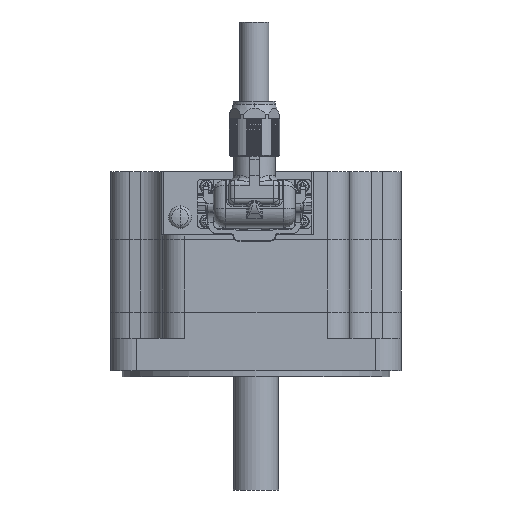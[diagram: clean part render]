
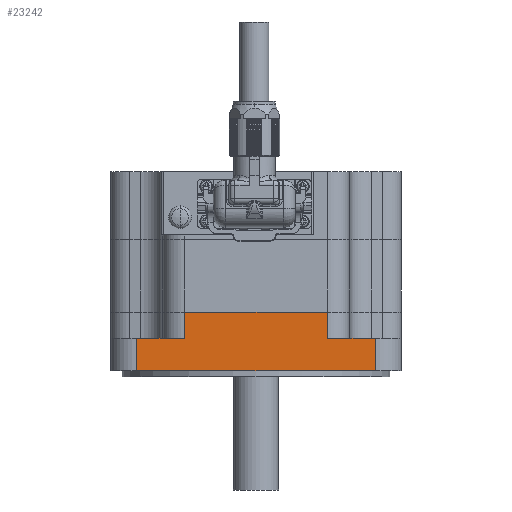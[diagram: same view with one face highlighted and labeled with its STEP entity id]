
A CAD part, front view. The second image highlights one B-rep face of the part: STEP entity #23242.
In plain terms, the highlighted planar face has unit normal (0, -1, 0).
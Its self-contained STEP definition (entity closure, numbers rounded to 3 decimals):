
#1114 = VERTEX_POINT ( 'NONE', #22687 ) ;
#1337 = ORIENTED_EDGE ( 'NONE', *, *, #22222, .F. ) ;
#1489 = DIRECTION ( 'NONE',  ( 1., 0., 0. ) ) ;
#2565 = EDGE_CURVE ( 'NONE', #32453, #25958, #18592, .T. ) ;
#2592 = VERTEX_POINT ( 'NONE', #26197 ) ;
#3045 = CARTESIAN_POINT ( 'NONE',  ( -37., -45., 10. ) ) ;
#4491 = DIRECTION ( 'NONE',  ( 0., 0., 1. ) ) ;
#5280 = CARTESIAN_POINT ( 'NONE',  ( -45., -45., 18.1 ) ) ;
#6147 = EDGE_CURVE ( 'NONE', #1114, #2592, #16616, .T. ) ;
#7098 = CARTESIAN_POINT ( 'NONE',  ( -37., -45., 10. ) ) ;
#7139 = AXIS2_PLACEMENT_3D ( 'NONE', #31786, #22745, #4491 ) ;
#7410 = ORIENTED_EDGE ( 'NONE', *, *, #27499, .F. ) ;
#7916 = VERTEX_POINT ( 'NONE', #19428 ) ;
#8008 = ORIENTED_EDGE ( 'NONE', *, *, #24191, .T. ) ;
#8068 = LINE ( 'NONE', #12669, #24216 ) ;
#8514 = VECTOR ( 'NONE', #11416, 1000. ) ;
#8929 = ORIENTED_EDGE ( 'NONE', *, *, #16890, .T. ) ;
#10703 = ORIENTED_EDGE ( 'NONE', *, *, #2565, .T. ) ;
#11168 = VERTEX_POINT ( 'NONE', #16461 ) ;
#11416 = DIRECTION ( 'NONE',  ( -1., 0., 0. ) ) ;
#11742 = DIRECTION ( 'NONE',  ( 0., 0., -1. ) ) ;
#12669 = CARTESIAN_POINT ( 'NONE',  ( 37., -45., 10. ) ) ;
#15092 = LINE ( 'NONE', #22846, #32235 ) ;
#15279 = CARTESIAN_POINT ( 'NONE',  ( -37., -45., 0. ) ) ;
#16313 = DIRECTION ( 'NONE',  ( 1., 0., 0. ) ) ;
#16461 = CARTESIAN_POINT ( 'NONE',  ( 22.14, -45., 10. ) ) ;
#16616 = LINE ( 'NONE', #5280, #8514 ) ;
#16730 = VECTOR ( 'NONE', #38118, 1000. ) ;
#16758 = LINE ( 'NONE', #31467, #30997 ) ;
#16890 = EDGE_CURVE ( 'NONE', #20996, #32453, #30884, .T. ) ;
#17005 = LINE ( 'NONE', #32961, #32206 ) ;
#17370 = LINE ( 'NONE', #32533, #33489 ) ;
#18575 = EDGE_LOOP ( 'NONE', ( #7410, #28536, #37887, #34331, #8929, #10703, #8008, #1337 ) ) ;
#18592 = LINE ( 'NONE', #25936, #16730 ) ;
#19428 = CARTESIAN_POINT ( 'NONE',  ( 37., -45., 10. ) ) ;
#19669 = PLANE ( 'NONE',  #7139 ) ;
#20996 = VERTEX_POINT ( 'NONE', #3045 ) ;
#21835 = VECTOR ( 'NONE', #25309, 1000. ) ;
#22222 = EDGE_CURVE ( 'NONE', #11168, #7916, #16758, .T. ) ;
#22687 = CARTESIAN_POINT ( 'NONE',  ( 22.14, -45., 18.1 ) ) ;
#22745 = DIRECTION ( 'NONE',  ( 0., 1., 0. ) ) ;
#22846 = CARTESIAN_POINT ( 'NONE',  ( -22.14, -45., 10. ) ) ;
#23242 = ADVANCED_FACE ( 'NONE', ( #34739 ), #19669, .F. ) ;
#24191 = EDGE_CURVE ( 'NONE', #25958, #7916, #8068, .T. ) ;
#24216 = VECTOR ( 'NONE', #33903, 1000. ) ;
#25309 = DIRECTION ( 'NONE',  ( 0., 0., -1. ) ) ;
#25571 = EDGE_CURVE ( 'NONE', #20996, #26440, #15092, .T. ) ;
#25936 = CARTESIAN_POINT ( 'NONE',  ( -45., -45., 0. ) ) ;
#25958 = VERTEX_POINT ( 'NONE', #26382 ) ;
#26029 = EDGE_CURVE ( 'NONE', #2592, #26440, #17005, .T. ) ;
#26197 = CARTESIAN_POINT ( 'NONE',  ( -22.14, -45., 18.1 ) ) ;
#26382 = CARTESIAN_POINT ( 'NONE',  ( 37., -45., 0. ) ) ;
#26440 = VERTEX_POINT ( 'NONE', #34963 ) ;
#26468 = DIRECTION ( 'NONE',  ( 0., 0., -1. ) ) ;
#27499 = EDGE_CURVE ( 'NONE', #1114, #11168, #17370, .T. ) ;
#28536 = ORIENTED_EDGE ( 'NONE', *, *, #6147, .T. ) ;
#30884 = LINE ( 'NONE', #7098, #21835 ) ;
#30997 = VECTOR ( 'NONE', #16313, 1000. ) ;
#31467 = CARTESIAN_POINT ( 'NONE',  ( 45., -45., 10. ) ) ;
#31786 = CARTESIAN_POINT ( 'NONE',  ( -45., -45., 10. ) ) ;
#32206 = VECTOR ( 'NONE', #11742, 1000. ) ;
#32235 = VECTOR ( 'NONE', #1489, 1000. ) ;
#32453 = VERTEX_POINT ( 'NONE', #15279 ) ;
#32533 = CARTESIAN_POINT ( 'NONE',  ( 22.14, -45., 61.6 ) ) ;
#32961 = CARTESIAN_POINT ( 'NONE',  ( -22.14, -45., 61.6 ) ) ;
#33489 = VECTOR ( 'NONE', #26468, 1000. ) ;
#33903 = DIRECTION ( 'NONE',  ( 0., 0., 1. ) ) ;
#34331 = ORIENTED_EDGE ( 'NONE', *, *, #25571, .F. ) ;
#34739 = FACE_OUTER_BOUND ( 'NONE', #18575, .T. ) ;
#34963 = CARTESIAN_POINT ( 'NONE',  ( -22.14, -45., 10. ) ) ;
#37887 = ORIENTED_EDGE ( 'NONE', *, *, #26029, .T. ) ;
#38118 = DIRECTION ( 'NONE',  ( 1., 0., 0. ) ) ;
